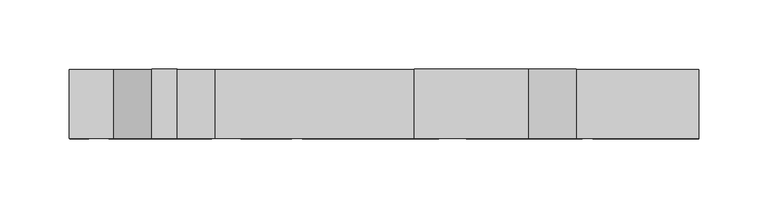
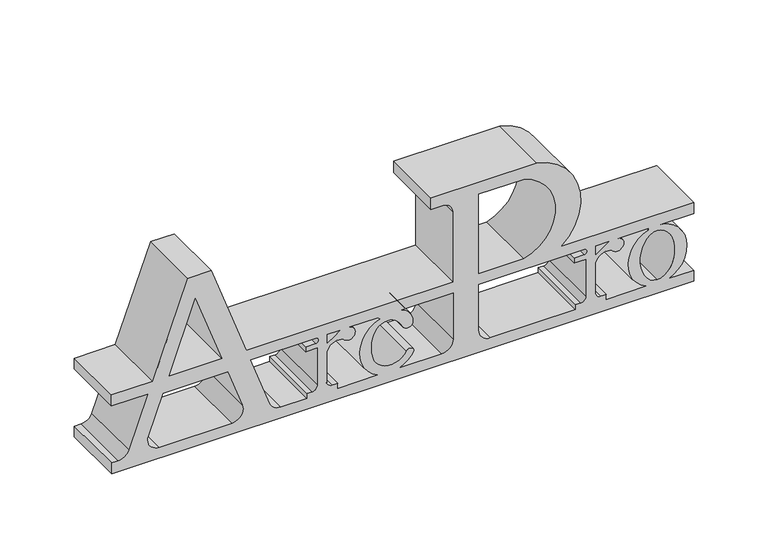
"""IFC4 building model written with IfcOpenShell, lengths in millimetres: proxy geometry, ArcPro Statue : ArcPro Statue."""

from ifc_helpers import new_model, si_unit, point, frame, origin, place, context, project, spatial, polyline, circle_curve, ellipse_curve, trimmed, source, transform, mapped, element, save
from ifc_brep_helpers import plane_surface, cylinder_surface, revolved_surface, extruded_surface, advanced_brep


def generic_models_c4c21ff8(model_context):
    return source(origin(), model_context, "Body", "AdvancedBrep", [
        advanced_brep(
        [(-159.9449231, -25.0, 28.9442604), (-159.9449231, -25.0, 20.1942604), (292.5550769, -25.0, 20.1942604), (292.5550769, -25.0, 28.9442604), (273.1751984, -25.0, 28.9442604), (264.2864752, -25.0, 75.8816405), (292.5550769, -25.0, 75.8816405), (292.5550769, -25.0, 84.8128453), (189.0734598, -25.0, 84.8128453), (170.4950353, -25.0, 160.0), (88.0915147, -25.0, 160.0), (88.0915147, -25.0, 150.6396934), (97.4851093, -25.0, 150.6396934), (105.4950353, -25.0, 142.6297673), (105.4950353, -25.0, 84.8128453), (-55.0790368, -25.0, 84.8128453), (-82.4449231, -25.0, 160.0), (-100.7641808, -25.0, 160.0), (-128.1300671, -25.0, 84.8128453), (-160.0766936, -25.0, 84.8128453), (-160.0766936, -25.0, 75.8816405), (-131.3807598, -25.0, 75.8816405), (-146.3092033, -25.0, 34.8660791), (-154.7664369, -25.0, 28.9442604), (125.4950353, -25.0, 75.8816405), (207.3544989, -25.0, 75.8816405), (207.3544989, -25.0, 71.6558392), (199.8255769, -25.0, 71.6558392), (199.8255769, -25.0, 67.4066965), (208.75, -25.0, 67.4066965), (208.75, -25.0, 37.0447447), (204.75, -25.0, 33.0447447), (200.5361176, -25.0, 33.0447447), (200.5361176, -25.0, 28.9442604), (134.4950353, -25.0, 28.9442604), (125.4950353, -25.0, 37.9442604), (7.5825693, -25.0, 59.9555658), (20.2310978, -25.0, 67.4066965), (25.1241089, -25.0, 75.8816405), (47.1265241, -25.0, 75.8816405), (48.3499831, -25.0, 74.6581814), (46.6477521, -25.0, 28.9442604), (15.7964517, -25.0, 28.9442604), (15.7964517, -25.0, 33.0447447), (11.5825693, -25.0, 33.0447447), (7.5825693, -25.0, 37.0447447), (0.0, -25.0, 37.0447447), (-4.0, -25.0, 33.0447447), (-8.2138824, -25.0, 33.0447447), (-8.2138824, -25.0, 28.9442604), (-28.442667, -25.0, 28.9442604), (-36.8999006, -25.0, 34.8660791), (-51.828344, -25.0, 75.8816405), (-1.3955011, -25.0, 75.8816405), (-1.3955011, -25.0, 71.6558392), (-8.9244231, -25.0, 71.6558392), (-8.9244231, -25.0, 67.4066965), (0.0, -25.0, 67.4066965), (-115.2934171, -25.0, 84.8128453), (-94.7295519, -25.0, 141.3116006), (-74.1656867, -25.0, 84.8128453), (-66.6845168, -25.0, 28.9442604), (-122.774587, -25.0, 28.9442604), (-131.2318206, -25.0, 41.0224417), (-119.9089982, -25.0, 72.1316405), (-69.5501056, -25.0, 72.1316405), (-58.2272832, -25.0, 41.0224417), (96.4144604, -25.0, 28.9442604), (64.4251984, -25.0, 28.9442604), (75.4072973, -25.0, 39.1802657), (69.1662261, -25.0, 40.9150945), (43.3055312, -25.0, 44.0998488), (42.298108, -25.0, 52.8259968), (43.3055312, -25.0, 61.5521448), (46.6530866, -25.0, 67.4272575), (63.5552121, -25.0, 66.0214407), (66.840922, -25.0, 61.1501754), (74.5739603, -25.0, 63.4780564), (65.6111143, -25.0, 75.8816405), (105.4950353, -25.0, 75.8816405), (105.4950353, -25.0, 38.0248353), (255.3977521, -25.0, 28.9442604), (224.5464517, -25.0, 28.9442604), (224.5464517, -25.0, 33.0447447), (220.3325693, -25.0, 33.0447447), (216.3325693, -25.0, 37.0447447), (216.3325693, -25.0, 59.9555658), (228.9810978, -25.0, 67.4066965), (233.8741089, -25.0, 75.8816405), (257.1288877, -25.0, 75.8816405), (257.1288877, -25.0, 74.6682602), (160.4950353, -25.0, 150.0146934), (160.4950353, -25.0, 84.8128453), (125.4950353, -25.0, 84.8128453), (125.4950353, -25.0, 150.0146934), (17.5825693, -25.0, 75.8816405), (7.5825693, -25.0, 68.8561474), (7.5825693, -25.0, 75.8816405), (226.3325693, -25.0, 75.8816405), (216.3325693, -25.0, 68.8561474), (216.3325693, -25.0, 75.8816405), (264.2864752, -25.0, 71.6558392), (264.2864752, -25.0, 31.2714473), (-159.9449231, 25.0, 28.9442604), (-154.7664369, 25.0, 28.9442604), (-146.3092033, 25.0, 34.8660791), (-131.3807598, 25.0, 75.8816405), (-160.0766936, 25.0, 75.8816405), (-160.0766936, 25.0, 84.8128453), (-128.1300671, 25.0, 84.8128453), (-100.7641808, 25.0, 160.0), (-82.4449231, 25.0, 160.0), (-55.0790368, 25.0, 84.8128453), (105.4950353, 25.0, 84.8128453), (105.4950353, 25.0, 142.6297673), (97.4851093, 25.0, 150.6396934), (88.0915147, 25.0, 150.6396934), (88.0915147, 25.0, 160.0), (170.4950353, 25.0, 160.0), (189.0734598, 25.0, 84.8128453), (292.5550769, 25.0, 84.8128453), (292.5550769, 25.0, 75.8816405), (264.2864752, 25.0, 75.8816405), (273.1751984, 25.0, 28.9442604), (292.5550769, 25.0, 28.9442604), (292.5550769, 25.0, 20.1942604), (-159.9449231, 25.0, 20.1942604), (125.4950353, 25.0, 75.8816405), (125.4950353, 25.0, 37.9442604), (134.4950353, 25.0, 28.9442604), (200.5361176, 25.0, 28.9442604), (200.5361176, 25.0, 33.0447447), (204.75, 25.0, 33.0447447), (208.75, 25.0, 37.0447447), (208.75, 25.0, 67.4066965), (199.8255769, 25.0, 67.4066965), (199.8255769, 25.0, 71.6558392), (207.3544989, 25.0, 71.6558392), (207.3544989, 25.0, 75.8816405), (7.5825693, 25.0, 59.9555658), (7.5825693, 25.0, 37.0447447), (11.5825693, 25.0, 33.0447447), (15.7964517, 25.0, 33.0447447), (15.7964517, 25.0, 28.9442604), (46.6477521, 25.0, 28.9442604), (48.3499831, 25.0, 74.6581814), (47.1265241, 25.0, 75.8816405), (25.1241089, 25.0, 75.8816405), (20.2310978, 25.0, 67.4066965), (0.0, 25.0, 37.0447447), (0.0, 25.0, 67.4066965), (-8.9244231, 25.0, 67.4066965), (-8.9244231, 25.0, 71.6558392), (-1.3955011, 25.0, 71.6558392), (-1.3955011, 25.0, 75.8816405), (-51.828344, 25.0, 75.8816405), (-36.8999006, 25.0, 34.8660791), (-28.442667, 25.0, 28.9442604), (-8.2138824, 25.0, 28.9442604), (-8.2138824, 25.0, 33.0447447), (-4.0, 25.0, 33.0447447), (-115.2934171, 25.0, 84.8128453), (-74.1656867, 25.0, 84.8128453), (-94.7295519, 25.0, 141.3116006), (-66.6845168, 25.0, 28.9442604), (-58.2272832, 25.0, 41.0224417), (-69.5501056, 25.0, 72.1316405), (-119.9089982, 25.0, 72.1316405), (-131.2318206, 25.0, 41.0224417), (-122.774587, 25.0, 28.9442604), (96.4144604, 25.0, 28.9442604), (105.4950353, 25.0, 38.0248353), (105.4950353, 25.0, 75.8816405), (65.6111143, 25.0, 75.8816405), (74.5739603, 25.0, 63.4780564), (66.840922, 25.0, 61.1501754), (63.5552121, 25.0, 66.0214407), (46.6530866, 25.0, 67.4272575), (43.3055312, 25.0, 61.5521448), (42.298108, 25.0, 52.8259968), (43.3055312, 25.0, 44.0998488), (69.1662261, 25.0, 40.9150945), (75.4072973, 25.0, 39.1802657), (64.4251984, 25.0, 28.9442604), (255.3977521, 25.0, 28.9442604), (257.1288877, 25.0, 74.6682602), (257.1288877, 25.0, 75.8816405), (233.8741089, 25.0, 75.8816405), (228.9810978, 25.0, 67.4066965), (216.3325693, 25.0, 59.9555658), (216.3325693, 25.0, 37.0447447), (220.3325693, 25.0, 33.0447447), (224.5464517, 25.0, 33.0447447), (224.5464517, 25.0, 28.9442604), (160.4950353, 25.0, 150.0146934), (125.4950353, 25.0, 150.0146934), (125.4950353, 25.0, 84.8128453), (160.4950353, 25.0, 84.8128453), (17.5825693, 25.0, 75.8816405), (7.5825693, 25.0, 75.8816405), (7.5825693, 25.0, 68.8561474), (226.3325693, 25.0, 75.8816405), (216.3325693, 25.0, 75.8816405), (216.3325693, 25.0, 68.8561474), (264.2864752, 25.0, 71.6558392), (264.2864752, 25.0, 31.2714473)],
        [
            (0, 1),
            (1, 2),
            (2, 3),
            (3, 4),
            (4, 5, ellipse_curve(frame((264.2864752, -25.0, 51.4636433), z_axis=(0.0, -1.0, 0.0), x_axis=(0.0, 0.0, -1.0)), 24.4179972, 22.9917286)),
            (5, 6),
            (6, 7),
            (7, 8),
            (8, 9, circle_curve(frame((161.7118893, -25.0, 117.9408202), z_axis=(0.0, -1.0, 0.0), x_axis=(1.0, 0.0, 0.0)), 42.9664783)),
            (9, 10),
            (10, 11),
            (11, 12),
            (12, 13, circle_curve(frame((97.4851093, -25.0, 142.6297673), z_axis=(0.0, 1.0, 0.0), x_axis=(1.0, 0.0, 0.0)), 8.009926)),
            (13, 14),
            (14, 15),
            (15, 16),
            (16, 17),
            (17, 18),
            (18, 19),
            (19, 20),
            (20, 21),
            (21, 22),
            (22, 23, circle_curve(frame((-154.7664369, -25.0, 37.9442604), z_axis=(0.0, 1.0, 0.0), x_axis=(1.0, 0.0, 0.0)), 9.0)),
            (23, 0),
            (24, 25),
            (25, 26, circle_curve(frame((207.3544989, -25.0, 73.7687398), z_axis=(0.0, 1.0, 0.0), x_axis=(1.0, 0.0, 0.0)), 2.1129006)),
            (26, 27),
            (27, 28),
            (28, 29),
            (29, 30),
            (30, 31, circle_curve(frame((204.75, -25.0, 37.0447447), z_axis=(0.0, 1.0, 0.0), x_axis=(1.0, 0.0, 0.0)), 4.0)),
            (31, 32),
            (32, 33),
            (33, 34),
            (34, 35, circle_curve(frame((134.4950353, -25.0, 37.9442604), z_axis=(0.0, 1.0, 0.0), x_axis=(1.0, 0.0, 0.0)), 9.0)),
            (35, 24),
            (36, 37, circle_curve(frame((16.1015295, -25.0, 59.9555658), z_axis=(0.0, 1.0, 0.0), x_axis=(1.0, 0.0, 0.0)), 8.5189602)),
            (37, 38, circle_curve(frame((24.4336944, -25.0, 70.6302889), z_axis=(0.0, -1.0, 0.0), x_axis=(1.0, 0.0, 0.0)), 5.2965428)),
            (38, 39),
            (39, 40),
            (40, 41, ellipse_curve(frame((55.5364752, -25.0, 51.4636433), z_axis=(0.0, -1.0, 0.0), x_axis=(0.0, 0.0, -1.0)), 24.4179972, 22.9917286)),
            (41, 42),
            (42, 43),
            (43, 44),
            (44, 45, circle_curve(frame((11.5825693, -25.0, 37.0447447), z_axis=(0.0, 1.0, 0.0), x_axis=(1.0, 0.0, 0.0)), 4.0)),
            (45, 36),
            (46, 47, circle_curve(frame((-4.0, -25.0, 37.0447447), z_axis=(0.0, 1.0, 0.0), x_axis=(1.0, 0.0, 0.0)), 4.0)),
            (47, 48),
            (48, 49),
            (49, 50),
            (50, 51, circle_curve(frame((-28.442667, -25.0, 37.9442604), z_axis=(0.0, 1.0, 0.0), x_axis=(1.0, 0.0, 0.0)), 9.0)),
            (51, 52),
            (52, 53),
            (53, 54, circle_curve(frame((-1.3955011, -25.0, 73.7687398), z_axis=(0.0, 1.0, 0.0), x_axis=(1.0, 0.0, 0.0)), 2.1129006)),
            (54, 55),
            (55, 56),
            (56, 57),
            (57, 46),
            (58, 59),
            (59, 60),
            (60, 58),
            (61, 62),
            (62, 63, circle_curve(frame((-122.774587, -25.0, 37.9442604), z_axis=(0.0, 1.0, 0.0), x_axis=(1.0, 0.0, 0.0)), 9.0)),
            (63, 64),
            (64, 65),
            (65, 66),
            (66, 61, circle_curve(frame((-66.6845168, -25.0, 37.9442604), z_axis=(0.0, 1.0, 0.0), x_axis=(1.0, 0.0, 0.0)), 9.0)),
            (67, 68),
            (68, 69, ellipse_curve(frame((55.5364752, -25.0, 51.4636433), z_axis=(0.0, -1.0, 0.0), x_axis=(0.0, 0.0, -1.0)), 24.4179972, 22.9917286)),
            (69, 70, circle_curve(frame((71.987116, -25.0, 38.9697005), z_axis=(0.0, -1.0, 0.0), x_axis=(1.0, 0.0, 0.0)), 3.426657)),
            (70, 71, circle_curve(frame((56.9071908, -25.0, 47.9586293), z_axis=(0.0, 1.0, 0.0), x_axis=(1.0, 0.0, 0.0)), 14.1384344)),
            (71, 72, circle_curve(frame((69.583184, -25.0, 51.5547989), z_axis=(0.0, 1.0, 0.0), x_axis=(1.0, 0.0, 0.0)), 27.3146722)),
            (72, 73, circle_curve(frame((69.583184, -25.0, 54.0971947), z_axis=(0.0, 1.0, 0.0), x_axis=(1.0, 0.0, 0.0)), 27.3146722)),
            (73, 74, circle_curve(frame((56.9071908, -25.0, 57.6933643), z_axis=(0.0, 1.0, 0.0), x_axis=(1.0, 0.0, 0.0)), 14.1384344)),
            (74, 75, circle_curve(frame((54.5399134, -25.0, 59.940545), z_axis=(0.0, 1.0, 0.0), x_axis=(1.0, 0.0, 0.0)), 10.874415)),
            (75, 76),
            (76, 77, circle_curve(frame((70.3461038, -25.0, 63.5144504), z_axis=(0.0, -1.0, 0.0), x_axis=(1.0, 0.0, 0.0)), 4.2280132)),
            (77, 78, circle_curve(frame((61.6637413, -25.0, 63.5891894), z_axis=(0.0, -1.0, 0.0), x_axis=(1.0, 0.0, 0.0)), 12.9106974)),
            (78, 79),
            (79, 80),
            (80, 67, circle_curve(frame((96.4144604, -25.0, 38.0248353), z_axis=(0.0, 1.0, 0.0), x_axis=(1.0, 0.0, 0.0)), 9.0805749)),
            (81, 82),
            (82, 83),
            (83, 84),
            (84, 85, circle_curve(frame((220.3325693, -25.0, 37.0447447), z_axis=(0.0, 1.0, 0.0), x_axis=(1.0, 0.0, 0.0)), 4.0)),
            (85, 86),
            (86, 87, circle_curve(frame((224.8515295, -25.0, 59.9555658), z_axis=(0.0, 1.0, 0.0), x_axis=(1.0, 0.0, 0.0)), 8.5189602)),
            (87, 88, circle_curve(frame((233.1836944, -25.0, 70.6302889), z_axis=(0.0, -1.0, 0.0), x_axis=(1.0, 0.0, 0.0)), 5.2965428)),
            (88, 89),
            (89, 90),
            (90, 81, ellipse_curve(frame((264.2864752, -25.0, 51.4636433), z_axis=(0.0, -1.0, 0.0), x_axis=(0.0, 0.0, -1.0)), 24.4179972, 22.9917286)),
            (91, 92, circle_curve(frame((151.0356126, -25.0, 117.4137693), z_axis=(0.0, 1.0, 0.0), x_axis=(1.0, 0.0, 0.0)), 33.9455583)),
            (92, 93),
            (93, 94),
            (94, 91),
            (95, 96, circle_curve(frame((-13.2194948, -25.0, 109.095233), z_axis=(0.0, 1.0, 0.0), x_axis=(1.0, 0.0, 0.0)), 45.2980119)),
            (96, 97),
            (97, 95),
            (98, 99, circle_curve(frame((195.5305052, -25.0, 109.095233), z_axis=(0.0, 1.0, 0.0), x_axis=(1.0, 0.0, 0.0)), 45.2980119)),
            (99, 100),
            (100, 98),
            (101, 102, ellipse_curve(frame((264.2864752, -25.0, 51.4636433), z_axis=(0.0, 1.0, 0.0), x_axis=(0.0, 0.0, -1.0)), 20.1921959, 13.2686017)),
            (102, 101, ellipse_curve(frame((264.2864752, -25.0, 51.4636433), z_axis=(0.0, 1.0, 0.0), x_axis=(0.0, 0.0, -1.0)), 20.1921959, 13.2686017)),
            (103, 104),
            (104, 105, circle_curve(frame((-154.7664369, 25.0, 37.9442604), z_axis=(0.0, -1.0, 0.0), x_axis=(1.0, 0.0, 0.0)), 9.0)),
            (105, 106),
            (106, 107),
            (107, 108),
            (108, 109),
            (109, 110),
            (110, 111),
            (111, 112),
            (112, 113),
            (113, 114),
            (114, 115, circle_curve(frame((97.4851093, 25.0, 142.6297673), z_axis=(0.0, -1.0, 0.0), x_axis=(1.0, 0.0, 0.0)), 8.009926)),
            (115, 116),
            (116, 117),
            (117, 118),
            (118, 119, circle_curve(frame((161.7118893, 25.0, 117.9408202), z_axis=(0.0, 1.0, 0.0), x_axis=(1.0, 0.0, 0.0)), 42.9664783)),
            (119, 120),
            (120, 121),
            (121, 122),
            (122, 123, ellipse_curve(frame((264.2864752, 25.0, 51.4636433), z_axis=(0.0, 1.0, 0.0), x_axis=(-1.0, 0.0, 0.0)), 22.9917286, 24.4179972)),
            (123, 124),
            (124, 125),
            (125, 126),
            (126, 103),
            (127, 128),
            (128, 129, circle_curve(frame((134.4950353, 25.0, 37.9442604), z_axis=(0.0, -1.0, 0.0), x_axis=(1.0, 0.0, 0.0)), 9.0)),
            (129, 130),
            (130, 131),
            (131, 132),
            (132, 133, circle_curve(frame((204.75, 25.0, 37.0447447), z_axis=(0.0, -1.0, 0.0), x_axis=(1.0, 0.0, 0.0)), 4.0)),
            (133, 134),
            (134, 135),
            (135, 136),
            (136, 137),
            (137, 138, circle_curve(frame((207.3544989, 25.0, 73.7687398), z_axis=(0.0, -1.0, 0.0), x_axis=(1.0, 0.0, 0.0)), 2.1129006)),
            (138, 127),
            (139, 140),
            (140, 141, circle_curve(frame((11.5825693, 25.0, 37.0447447), z_axis=(0.0, -1.0, 0.0), x_axis=(1.0, 0.0, 0.0)), 4.0)),
            (141, 142),
            (142, 143),
            (143, 144),
            (144, 145, ellipse_curve(frame((55.5364752, 25.0, 51.4636433), z_axis=(0.0, 1.0, 0.0), x_axis=(0.0, 0.0, -1.0)), 24.4179972, 22.9917286)),
            (145, 146),
            (146, 147),
            (147, 148, circle_curve(frame((24.4336944, 25.0, 70.6302889), z_axis=(0.0, 1.0, 0.0), x_axis=(1.0, 0.0, 0.0)), 5.2965428)),
            (148, 139, circle_curve(frame((16.1015295, 25.0, 59.9555658), z_axis=(0.0, -1.0, 0.0), x_axis=(1.0, 0.0, 0.0)), 8.5189602)),
            (149, 150),
            (150, 151),
            (151, 152),
            (152, 153),
            (153, 154, circle_curve(frame((-1.3955011, 25.0, 73.7687398), z_axis=(0.0, -1.0, 0.0), x_axis=(1.0, 0.0, 0.0)), 2.1129006)),
            (154, 155),
            (155, 156),
            (156, 157, circle_curve(frame((-28.442667, 25.0, 37.9442604), z_axis=(0.0, -1.0, 0.0), x_axis=(1.0, 0.0, 0.0)), 9.0)),
            (157, 158),
            (158, 159),
            (159, 160),
            (160, 149, circle_curve(frame((-4.0, 25.0, 37.0447447), z_axis=(0.0, -1.0, 0.0), x_axis=(1.0, 0.0, 0.0)), 4.0)),
            (161, 162),
            (162, 163),
            (163, 161),
            (164, 165, circle_curve(frame((-66.6845168, 25.0, 37.9442604), z_axis=(0.0, -1.0, 0.0), x_axis=(1.0, 0.0, 0.0)), 9.0)),
            (165, 166),
            (166, 167),
            (167, 168),
            (168, 169, circle_curve(frame((-122.774587, 25.0, 37.9442604), z_axis=(0.0, -1.0, 0.0), x_axis=(1.0, 0.0, 0.0)), 9.0)),
            (169, 164),
            (170, 171, circle_curve(frame((96.4144604, 25.0, 38.0248353), z_axis=(0.0, -1.0, 0.0), x_axis=(1.0, 0.0, 0.0)), 9.0805749)),
            (171, 172),
            (172, 173),
            (173, 174, circle_curve(frame((61.6637413, 25.0, 63.5891894), z_axis=(0.0, 1.0, 0.0), x_axis=(1.0, 0.0, 0.0)), 12.9106974)),
            (174, 175, circle_curve(frame((70.3461038, 25.0, 63.5144504), z_axis=(0.0, 1.0, 0.0), x_axis=(1.0, 0.0, 0.0)), 4.2280132)),
            (175, 176),
            (176, 177, circle_curve(frame((54.5399134, 25.0, 59.940545), z_axis=(0.0, -1.0, 0.0), x_axis=(1.0, 0.0, 0.0)), 10.874415)),
            (177, 178, circle_curve(frame((56.9071908, 25.0, 57.6933643), z_axis=(0.0, -1.0, 0.0), x_axis=(1.0, 0.0, 0.0)), 14.1384344)),
            (178, 179, circle_curve(frame((69.583184, 25.0, 54.0971947), z_axis=(0.0, -1.0, 0.0), x_axis=(1.0, 0.0, 0.0)), 27.3146722)),
            (179, 180, circle_curve(frame((69.583184, 25.0, 51.5547989), z_axis=(0.0, -1.0, 0.0), x_axis=(1.0, 0.0, 0.0)), 27.3146722)),
            (180, 181, circle_curve(frame((56.9071908, 25.0, 47.9586293), z_axis=(0.0, -1.0, 0.0), x_axis=(1.0, 0.0, 0.0)), 14.1384344)),
            (181, 182, circle_curve(frame((71.987116, 25.0, 38.9697005), z_axis=(0.0, 1.0, 0.0), x_axis=(1.0, 0.0, 0.0)), 3.426657)),
            (182, 183, ellipse_curve(frame((55.5364752, 25.0, 51.4636433), z_axis=(0.0, 1.0, 0.0), x_axis=(0.0, 0.0, -1.0)), 24.4179972, 22.9917286)),
            (183, 170),
            (184, 185, ellipse_curve(frame((264.2864752, 25.0, 51.4636433), z_axis=(0.0, 1.0, 0.0), x_axis=(0.0, 0.0, -1.0)), 24.4179972, 22.9917286)),
            (185, 186),
            (186, 187),
            (187, 188, circle_curve(frame((233.1836944, 25.0, 70.6302889), z_axis=(0.0, 1.0, 0.0), x_axis=(1.0, 0.0, 0.0)), 5.2965428)),
            (188, 189, circle_curve(frame((224.8515295, 25.0, 59.9555658), z_axis=(0.0, -1.0, 0.0), x_axis=(1.0, 0.0, 0.0)), 8.5189602)),
            (189, 190),
            (190, 191, circle_curve(frame((220.3325693, 25.0, 37.0447447), z_axis=(0.0, -1.0, 0.0), x_axis=(1.0, 0.0, 0.0)), 4.0)),
            (191, 192),
            (192, 193),
            (193, 184),
            (194, 195),
            (195, 196),
            (196, 197),
            (197, 194, circle_curve(frame((151.0356126, 25.0, 117.4137693), z_axis=(0.0, -1.0, 0.0), x_axis=(1.0, 0.0, 0.0)), 33.9455583)),
            (198, 199),
            (199, 200),
            (200, 198, circle_curve(frame((-13.2194948, 25.0, 109.095233), z_axis=(0.0, -1.0, 0.0), x_axis=(1.0, 0.0, 0.0)), 45.2980119)),
            (201, 202),
            (202, 203),
            (203, 201, circle_curve(frame((195.5305052, 25.0, 109.095233), z_axis=(0.0, -1.0, 0.0), x_axis=(1.0, 0.0, 0.0)), 45.2980119)),
            (204, 205, ellipse_curve(frame((264.2864752, 25.0, 51.4636433), z_axis=(0.0, -1.0, 0.0), x_axis=(0.0, 0.0, -1.0)), 20.1921959, 13.2686017)),
            (205, 204, ellipse_curve(frame((264.2864752, 25.0, 51.4636433), z_axis=(0.0, -1.0, 0.0), x_axis=(0.0, 0.0, -1.0)), 20.1921959, 13.2686017)),
            (0, 103),
            (126, 1),
            (125, 2),
            (124, 3),
            (123, 4),
            (122, 5),
            (121, 6),
            (120, 7),
            (119, 8),
            (118, 9),
            (117, 10),
            (116, 11),
            (115, 12),
            (114, 13),
            (113, 14),
            (112, 15),
            (111, 16),
            (110, 17),
            (109, 18),
            (108, 19),
            (107, 20),
            (106, 21),
            (105, 22),
            (104, 23),
            (24, 127),
            (138, 25),
            (137, 26),
            (136, 27),
            (135, 28),
            (134, 29),
            (133, 30),
            (132, 31),
            (131, 32),
            (130, 33),
            (129, 34),
            (128, 35),
            (36, 139),
            (148, 37),
            (147, 38),
            (146, 39),
            (145, 40),
            (144, 41),
            (143, 42),
            (142, 43),
            (141, 44),
            (140, 45),
            (46, 149),
            (160, 47),
            (159, 48),
            (158, 49),
            (157, 50),
            (156, 51),
            (155, 52),
            (154, 53),
            (153, 54),
            (152, 55),
            (151, 56),
            (150, 57),
            (58, 161),
            (163, 59),
            (162, 60),
            (61, 164),
            (169, 62),
            (168, 63),
            (167, 64),
            (166, 65),
            (165, 66),
            (67, 170),
            (183, 68),
            (182, 69),
            (181, 70),
            (180, 71),
            (179, 72),
            (178, 73),
            (177, 74),
            (176, 75),
            (175, 76),
            (174, 77),
            (173, 78),
            (172, 79),
            (171, 80),
            (81, 184),
            (193, 82),
            (192, 83),
            (191, 84),
            (190, 85),
            (189, 86),
            (188, 87),
            (187, 88),
            (186, 89),
            (185, 90),
            (91, 194),
            (197, 92),
            (196, 93),
            (195, 94),
            (95, 198),
            (200, 96),
            (199, 97),
            (98, 201),
            (203, 99),
            (202, 100),
            (101, 204),
            (205, 102),
        ],
        [
            plane_surface(frame((-159.9449231, -25.0, 30.1942604), z_axis=(0.0, -1.0, 0.0), x_axis=(0.0, 0.0, -1.0))),
            plane_surface(frame((-159.9449231, 25.0, 30.1942604), z_axis=(0.0, 1.0, 0.0), x_axis=(0.0, 0.0, 1.0))),
            plane_surface(frame((-159.9449231, -25.0, 28.9442604), z_axis=(-1.0, 0.0, 0.0), x_axis=(0.0, 1.0, 0.0))),
            plane_surface(frame((-159.9449231, -25.0, 20.1942604), z_axis=(0.0, 0.0, -1.0), x_axis=(0.0, 1.0, 0.0))),
            plane_surface(frame((292.5550769, -25.0, 20.1942604), z_axis=(1.0, 0.0, 0.0), x_axis=(0.0, 1.0, 0.0))),
            plane_surface(frame((292.5550769, -25.0, 28.9442604), z_axis=(0.0, 0.0, 1.0), x_axis=(0.0, 1.0, 0.0))),
            extruded_surface(trimmed(ellipse_curve(frame((264.2864752, 75.0, 51.4636433), z_axis=(0.0, -1.0, 0.0), x_axis=(-1.0, 0.0, 0.0)), 22.9917286, 24.4179972), [point((273.1751984, 75.0, 28.9442604))], [point((264.2864752, 75.0, 75.8816405))], True, "CARTESIAN"), (0.0, -50.0, 0.0), 50.0),
            plane_surface(frame((264.2864752, -25.0, 75.8816405), z_axis=(0.0, 0.0, -1.0), x_axis=(0.0, 1.0, 0.0))),
            plane_surface(frame((292.5550769, -25.0, 75.8816405), z_axis=(1.0, 0.0, 0.0), x_axis=(0.0, 1.0, 0.0))),
            plane_surface(frame((292.5550769, -25.0, 84.8128453), z_axis=(0.0, 0.0, 1.0), x_axis=(0.0, 1.0, 0.0))),
            cylinder_surface(frame((161.7118893, 25.0, 117.9408202), z_axis=(0.0, -1.0, 0.0), x_axis=(1.0, 0.0, 0.0)), 42.9664783),
            plane_surface(frame((170.4950353, -25.0, 160.0), z_axis=(0.0, 0.0, 1.0), x_axis=(0.0, 1.0, 0.0))),
            plane_surface(frame((88.0915147, -25.0, 160.0), z_axis=(-1.0, 0.0, 0.0), x_axis=(0.0, 1.0, 0.0))),
            plane_surface(frame((88.0915147, -25.0, 150.6396934), z_axis=(0.0, 0.0, -1.0), x_axis=(0.0, 1.0, 0.0))),
            revolved_surface(polyline([(105.49503530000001, 25.0, 142.6297673), (105.49503530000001, -25.0, 142.6297673)]), (97.4851093, 25.0, 142.6297673), (0.0, 1.0, 0.0)),
            plane_surface(frame((105.4950353, -25.0, 142.6297673), z_axis=(-1.0, 0.0, 0.0), x_axis=(0.0, 1.0, 0.0))),
            plane_surface(frame((105.4950353, -25.0, 84.8128453), z_axis=(0.0, 0.0, 1.0), x_axis=(0.0, 1.0, 0.0))),
            plane_surface(frame((-55.0790368, -25.0, 84.8128453), z_axis=(0.9396926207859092, 0.0, 0.3420201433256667), x_axis=(0.0, 1.0, 0.0))),
            plane_surface(frame((-82.4449231, -25.0, 160.0), z_axis=(0.0, 0.0, 1.0), x_axis=(0.0, 1.0, 0.0))),
            plane_surface(frame((-100.7641808, -25.0, 160.0), z_axis=(-0.9396926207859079, 0.0, 0.3420201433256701), x_axis=(0.0, 1.0, 0.0))),
            plane_surface(frame((-128.1300671, -25.0, 84.8128453), z_axis=(0.0, 0.0, 1.0), x_axis=(0.0, 1.0, 0.0))),
            plane_surface(frame((-160.0766936, -25.0, 84.8128453), z_axis=(-1.0, 0.0, 0.0), x_axis=(0.0, 1.0, 0.0))),
            plane_surface(frame((-160.0766936, -25.0, 75.8816405), z_axis=(0.0, 0.0, -1.0), x_axis=(0.0, 1.0, 0.0))),
            plane_surface(frame((-131.3807598, -25.0, 75.8816405), z_axis=(-0.9396926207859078, 0.0, 0.3420201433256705), x_axis=(0.0, 1.0, 0.0))),
            revolved_surface(polyline([(-145.7664369, 25.0, 37.9442604), (-145.7664369, -25.0, 37.9442604)]), (-154.7664369, 25.0, 37.9442604), (0.0, 1.0, 0.0)),
            plane_surface(frame((-154.7664369, -25.0, 28.9442604), z_axis=(0.0, 0.0, 1.0), x_axis=(0.0, 1.0, 0.0))),
            plane_surface(frame((125.4950353, -25.0, 75.8816405), z_axis=(0.0, 0.0, -1.0), x_axis=(0.0, 1.0, 0.0))),
            revolved_surface(polyline([(209.4673995, 25.0, 73.7687398), (209.4673995, -25.0, 73.7687398)]), (207.3544989, 0.0, 73.7687398), (0.0, 1.0, 0.0)),
            plane_surface(frame((207.3544989, -25.0, 71.6558392), z_axis=(0.0, 0.0, 1.0), x_axis=(0.0, 1.0, 0.0))),
            plane_surface(frame((199.8255769, -25.0, 71.6558392), z_axis=(-1.0, 0.0, 0.0), x_axis=(0.0, 1.0, 0.0))),
            plane_surface(frame((199.8255769, -25.0, 67.4066965), z_axis=(0.0, 0.0, -1.0), x_axis=(0.0, 1.0, 0.0))),
            plane_surface(frame((208.75, -25.0, 67.4066965), z_axis=(-1.0, 0.0, 0.0), x_axis=(0.0, 1.0, 0.0))),
            revolved_surface(polyline([(208.75, 25.0, 37.0447447), (208.75, -25.0, 37.0447447)]), (204.75, 0.0, 37.0447447), (0.0, 1.0, 0.0)),
            plane_surface(frame((204.75, -25.0, 33.0447447), z_axis=(0.0, 0.0, 1.0), x_axis=(0.0, 1.0, 0.0))),
            plane_surface(frame((200.5361176, -25.0, 33.0447447), z_axis=(-1.0, 0.0, 0.0), x_axis=(0.0, 1.0, 0.0))),
            plane_surface(frame((200.5361176, -25.0, 28.9442604), z_axis=(0.0, 0.0, 1.0), x_axis=(0.0, 1.0, 0.0))),
            revolved_surface(polyline([(143.4950353, 25.0, 37.9442604), (143.4950353, -25.0, 37.9442604)]), (134.4950353, 0.0, 37.9442604), (0.0, 1.0, 0.0)),
            plane_surface(frame((125.4950353, -25.0, 37.9442604), z_axis=(1.0, 0.0, 0.0), x_axis=(0.0, 1.0, 0.0))),
            revolved_surface(polyline([(24.6204897, 25.0, 59.9555658), (24.6204897, -25.0, 59.9555658)]), (16.1015295, 0.0, 59.9555658), (0.0, 1.0, 0.0)),
            cylinder_surface(frame((24.4336944, 0.0, 70.6302889), z_axis=(0.0, -1.0, 0.0), x_axis=(1.0, 0.0, 0.0)), 5.2965428),
            plane_surface(frame((25.1241089, -25.0, 75.8816405), z_axis=(0.0, 0.0, -1.0), x_axis=(0.0, 1.0, 0.0))),
            plane_surface(frame((47.1265241, -25.0, 75.8816405), z_axis=(-0.7071067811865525, 0.0, -0.7071067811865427), x_axis=(0.0, 1.0, 0.0))),
            extruded_surface(trimmed(ellipse_curve(frame((55.5364752, 50.0, 51.4636433), z_axis=(0.0, -1.0, 0.0), x_axis=(-1.0, 0.0, 0.0)), 22.9917286, 24.4179972), [point((48.3499831, 50.0, 74.6581814))], [point((46.6477521, 50.0, 28.9442604))], True, "CARTESIAN"), (0.0, -50.0, 0.0), 50.0),
            plane_surface(frame((46.6477521, -25.0, 28.9442604), z_axis=(0.0, 0.0, 1.0), x_axis=(0.0, 1.0, 0.0))),
            plane_surface(frame((15.7964517, -25.0, 28.9442604), z_axis=(1.0, 0.0, 0.0), x_axis=(0.0, 1.0, 0.0))),
            plane_surface(frame((15.7964517, -25.0, 33.0447447), z_axis=(0.0, 0.0, 1.0), x_axis=(0.0, 1.0, 0.0))),
            revolved_surface(polyline([(15.5825693, 25.0, 37.0447447), (15.5825693, -25.0, 37.0447447)]), (11.5825693, 0.0, 37.0447447), (0.0, 1.0, 0.0)),
            plane_surface(frame((7.5825693, -25.0, 37.0447447), z_axis=(1.0, 0.0, 0.0), x_axis=(0.0, 1.0, 0.0))),
            revolved_surface(polyline([(0.0, 25.0, 37.0447447), (0.0, -25.0, 37.0447447)]), (-4.0, 0.0, 37.0447447), (0.0, 1.0, 0.0)),
            plane_surface(frame((-4.0, -25.0, 33.0447447), z_axis=(0.0, 0.0, 1.0), x_axis=(0.0, 1.0, 0.0))),
            plane_surface(frame((-8.2138824, -25.0, 33.0447447), z_axis=(-1.0, 0.0, 0.0), x_axis=(0.0, 1.0, 0.0))),
            plane_surface(frame((-8.2138824, -25.0, 28.9442604), z_axis=(0.0, 0.0, 1.0), x_axis=(0.0, 1.0, 0.0))),
            revolved_surface(polyline([(-19.442667, 25.0, 37.9442604), (-19.442667, -25.0, 37.9442604)]), (-28.442667, 0.0, 37.9442604), (0.0, 1.0, 0.0)),
            plane_surface(frame((-36.8999006, -25.0, 34.8660791), z_axis=(0.9396926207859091, 0.0, 0.34202014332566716), x_axis=(0.0, 1.0, 0.0))),
            plane_surface(frame((-51.828344, -25.0, 75.8816405), z_axis=(0.0, 0.0, -1.0), x_axis=(0.0, 1.0, 0.0))),
            revolved_surface(polyline([(0.7173995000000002, 25.0, 73.7687398), (0.7173995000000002, -25.0, 73.7687398)]), (-1.3955011, 0.0, 73.7687398), (0.0, 1.0, 0.0)),
            plane_surface(frame((-1.3955011, -25.0, 71.6558392), z_axis=(0.0, 0.0, 1.0), x_axis=(0.0, 1.0, 0.0))),
            plane_surface(frame((-8.9244231, -25.0, 71.6558392), z_axis=(-1.0, 0.0, 0.0), x_axis=(0.0, 1.0, 0.0))),
            plane_surface(frame((-8.9244231, -25.0, 67.4066965), z_axis=(0.0, 0.0, -1.0), x_axis=(0.0, 1.0, 0.0))),
            plane_surface(frame((0.0, -25.0, 67.4066965), z_axis=(-1.0, 0.0, 0.0), x_axis=(0.0, 1.0, 0.0))),
            plane_surface(frame((-115.2934171, -25.0, 84.8128453), z_axis=(0.9396926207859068, 0.0, -0.34202014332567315), x_axis=(0.0, 1.0, 0.0))),
            plane_surface(frame((-94.7295519, -25.0, 141.3116006), z_axis=(-0.9396926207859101, 0.0, -0.3420201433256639), x_axis=(0.0, 1.0, 0.0))),
            plane_surface(frame((-74.1656867, -25.0, 84.8128453), z_axis=(0.0, 0.0, 1.0), x_axis=(0.0, 1.0, 0.0))),
            plane_surface(frame((-66.6845168, -25.0, 28.9442604), z_axis=(0.0, 0.0, 1.0), x_axis=(0.0, 1.0, 0.0))),
            revolved_surface(polyline([(-113.774587, 25.0, 37.9442604), (-113.774587, -25.0, 37.9442604)]), (-122.774587, 0.0, 37.9442604), (0.0, 1.0, 0.0)),
            plane_surface(frame((-131.2318206, -25.0, 41.0224417), z_axis=(0.9396926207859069, 0.0, -0.342020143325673), x_axis=(0.0, 1.0, 0.0))),
            plane_surface(frame((-119.9089982, -25.0, 72.1316405), z_axis=(0.0, 0.0, -1.0), x_axis=(0.0, 1.0, 0.0))),
            plane_surface(frame((-69.5501056, -25.0, 72.1316405), z_axis=(-0.9396926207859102, 0.0, -0.3420201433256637), x_axis=(0.0, 1.0, 0.0))),
            revolved_surface(polyline([(-57.6845168, 25.0, 37.9442604), (-57.6845168, -25.0, 37.9442604)]), (-66.6845168, 0.0, 37.9442604), (0.0, 1.0, 0.0)),
            plane_surface(frame((96.4144604, -25.0, 28.9442604), z_axis=(0.0, 0.0, 1.0), x_axis=(0.0, 1.0, 0.0))),
            extruded_surface(trimmed(ellipse_curve(frame((55.5364752, 50.0, 51.4636433), z_axis=(0.0, -1.0, 0.0), x_axis=(-1.0, 0.0, 0.0)), 22.9917286, 24.4179972), [point((64.4251984, 50.0, 28.9442604))], [point((75.4072973, 50.0, 39.1802657))], True, "CARTESIAN"), (0.0, -50.0, 0.0), 50.0),
            cylinder_surface(frame((71.987116, 0.0, 38.9697005), z_axis=(0.0, -1.0, 0.0), x_axis=(1.0, 0.0, 0.0)), 3.426657),
            revolved_surface(polyline([(71.0456252, 25.0, 47.9586293), (71.0456252, -25.0, 47.9586293)]), (56.9071908, 0.0, 47.9586293), (0.0, 1.0, 0.0)),
            revolved_surface(polyline([(96.8978562, 25.0, 51.5547989), (96.8978562, -25.0, 51.5547989)]), (69.583184, 0.0, 51.5547989), (0.0, 1.0, 0.0)),
            revolved_surface(polyline([(96.8978562, 25.0, 54.0971947), (96.8978562, -25.0, 54.0971947)]), (69.583184, 0.0, 54.0971947), (0.0, 1.0, 0.0)),
            revolved_surface(polyline([(71.0456252, 25.0, 57.6933643), (71.0456252, -25.0, 57.6933643)]), (56.9071908, 0.0, 57.6933643), (0.0, 1.0, 0.0)),
            revolved_surface(polyline([(65.4143284, 25.0, 59.940545), (65.4143284, -25.0, 59.940545)]), (54.5399134, 0.0, 59.940545), (0.0, 1.0, 0.0)),
            plane_surface(frame((63.5552121, -25.0, 66.0214407), z_axis=(-0.8290375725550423, 0.0, -0.559192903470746), x_axis=(0.0, 1.0, 0.0))),
            cylinder_surface(frame((70.3461038, 0.0, 63.5144504), z_axis=(0.0, -1.0, 0.0), x_axis=(1.0, 0.0, 0.0)), 4.2280132),
            cylinder_surface(frame((61.6637413, 0.0, 63.5891894), z_axis=(0.0, -1.0, 0.0), x_axis=(1.0, 0.0, 0.0)), 12.9106974),
            plane_surface(frame((65.6111143, -25.0, 75.8816405), z_axis=(0.0, 0.0, -1.0), x_axis=(0.0, 1.0, 0.0))),
            plane_surface(frame((105.4950353, -25.0, 75.8816405), z_axis=(-1.0, 0.0, 0.0), x_axis=(0.0, 1.0, 0.0))),
            revolved_surface(polyline([(105.4950353, 25.0, 38.0248353), (105.4950353, -25.0, 38.0248353)]), (96.4144604, 0.0, 38.0248353), (0.0, 1.0, 0.0)),
            plane_surface(frame((255.3977521, -25.0, 28.9442604), z_axis=(0.0, 0.0, 1.0), x_axis=(0.0, 1.0, 0.0))),
            plane_surface(frame((224.5464517, -25.0, 28.9442604), z_axis=(1.0, 0.0, 0.0), x_axis=(0.0, 1.0, 0.0))),
            plane_surface(frame((224.5464517, -25.0, 33.0447447), z_axis=(0.0, 0.0, 1.0), x_axis=(0.0, 1.0, 0.0))),
            revolved_surface(polyline([(224.3325693, 25.0, 37.0447447), (224.3325693, -25.0, 37.0447447)]), (220.3325693, 0.0, 37.0447447), (0.0, 1.0, 0.0)),
            plane_surface(frame((216.3325693, -25.0, 37.0447447), z_axis=(1.0, 0.0, 0.0), x_axis=(0.0, 1.0, 0.0))),
            revolved_surface(polyline([(233.3704897, 25.0, 59.9555658), (233.3704897, -25.0, 59.9555658)]), (224.8515295, 0.0, 59.9555658), (0.0, 1.0, 0.0)),
            cylinder_surface(frame((233.1836944, 0.0, 70.6302889), z_axis=(0.0, -1.0, 0.0), x_axis=(1.0, 0.0, 0.0)), 5.2965428),
            plane_surface(frame((233.8741089, -25.0, 75.8816405), z_axis=(0.0, 0.0, -1.0), x_axis=(0.0, 1.0, 0.0))),
            plane_surface(frame((257.1288877, -25.0, 75.8816405), z_axis=(-1.0, 0.0, 0.0), x_axis=(0.0, 1.0, 0.0))),
            extruded_surface(trimmed(ellipse_curve(frame((264.2864752, 50.0, 51.4636433), z_axis=(0.0, -1.0, 0.0), x_axis=(-1.0, 0.0, 0.0)), 22.9917286, 24.4179972), [point((257.1288877, 50.0, 74.6682602))], [point((255.3977521, 50.0, 28.9442604))], True, "CARTESIAN"), (0.0, -50.0, 0.0), 50.0),
            revolved_surface(polyline([(184.9811709, 25.0, 117.4137693), (184.9811709, -25.0, 117.4137693)]), (151.0356126, 0.0, 117.4137693), (0.0, 1.0, 0.0)),
            plane_surface(frame((160.4950353, -25.0, 84.8128453), z_axis=(0.0, 0.0, 1.0), x_axis=(0.0, 1.0, 0.0))),
            plane_surface(frame((125.4950353, -25.0, 84.8128453), z_axis=(1.0, 0.0, 0.0), x_axis=(0.0, 1.0, 0.0))),
            plane_surface(frame((125.4950353, -25.0, 150.0146934), z_axis=(0.0, 0.0, -1.0), x_axis=(0.0, 1.0, 0.0))),
            revolved_surface(polyline([(32.0785171, 25.0, 109.095233), (32.0785171, -25.0, 109.095233)]), (-13.2194948, 0.0, 109.095233), (0.0, 1.0, 0.0)),
            plane_surface(frame((7.5825693, -25.0, 68.8561474), z_axis=(1.0, 0.0, 0.0), x_axis=(0.0, 1.0, 0.0))),
            plane_surface(frame((7.5825693, -25.0, 75.8816405), z_axis=(0.0, 0.0, -1.0), x_axis=(0.0, 1.0, 0.0))),
            revolved_surface(polyline([(240.8285171, 25.0, 109.095233), (240.8285171, -25.0, 109.095233)]), (195.5305052, 0.0, 109.095233), (0.0, 1.0, 0.0)),
            plane_surface(frame((216.3325693, -25.0, 68.8561474), z_axis=(1.0, 0.0, 0.0), x_axis=(0.0, 1.0, 0.0))),
            plane_surface(frame((216.3325693, -25.0, 75.8816405), z_axis=(0.0, 0.0, -1.0), x_axis=(0.0, 1.0, 0.0))),
            extruded_surface(trimmed(ellipse_curve(frame((264.2864752, 50.0, 51.4636433), z_axis=(0.0, 1.0, 0.0), x_axis=(0.0, 0.0, -1.0)), 20.1921959, 13.2686017), [point((264.2864752, 50.0, 71.6558392))], [point((264.2864752, 50.0, 31.2714473))], True, "CARTESIAN"), (0.0, -50.0, 0.0), 50.0),
            extruded_surface(trimmed(ellipse_curve(frame((264.2864752, 50.0, 51.4636433), z_axis=(0.0, 1.0, 0.0), x_axis=(0.0, 0.0, -1.0)), 20.1921959, 13.2686017), [point((264.2864752, 50.0, 31.2714473))], [point((264.2864752, 50.0, 71.6558392))], True, "CARTESIAN"), (0.0, -50.0, 0.0), 50.0),
        ],
        [
            (0, [[1, 2, 3, 4, 5, 6, 7, 8, 9, 10, 11, 12, 13, 14, 15, 16, 17, 18, 19, 20, 21, 22, 23, 24], [25, 26, 27, 28, 29, 30, 31, 32, 33, 34, 35, 36], [37, 38, 39, 40, 41, 42, 43, 44, 45, 46], [47, 48, 49, 50, 51, 52, 53, 54, 55, 56, 57, 58], [59, 60, 61], [62, 63, 64, 65, 66, 67], [68, 69, 70, 71, 72, 73, 74, 75, 76, 77, 78, 79, 80, 81], [82, 83, 84, 85, 86, 87, 88, 89, 90, 91], [92, 93, 94, 95], [96, 97, 98], [99, 100, 101], [102, 103]]),
            (1, [[104, 105, 106, 107, 108, 109, 110, 111, 112, 113, 114, 115, 116, 117, 118, 119, 120, 121, 122, 123, 124, 125, 126, 127], [128, 129, 130, 131, 132, 133, 134, 135, 136, 137, 138, 139], [140, 141, 142, 143, 144, 145, 146, 147, 148, 149], [150, 151, 152, 153, 154, 155, 156, 157, 158, 159, 160, 161], [162, 163, 164], [165, 166, 167, 168, 169, 170], [171, 172, 173, 174, 175, 176, 177, 178, 179, 180, 181, 182, 183, 184], [185, 186, 187, 188, 189, 190, 191, 192, 193, 194], [195, 196, 197, 198], [199, 200, 201], [202, 203, 204], [205, 206]]),
            (2, [[-1, 207, -127, 208]]),
            (3, [[-2, -208, -126, 209]]),
            (4, [[-3, -209, -125, 210]]),
            (5, [[-4, -210, -124, 211]]),
            (6, [[-5, -211, -123, 212]]),
            (7, [[-6, -212, -122, 213]]),
            (8, [[-7, -213, -121, 214]]),
            (9, [[-8, -214, -120, 215]]),
            (10, [[-9, -215, -119, 216]]),
            (11, [[-10, -216, -118, 217]]),
            (12, [[-11, -217, -117, 218]]),
            (13, [[-12, -218, -116, 219]]),
            (14, [[-13, -219, -115, 220]]),
            (15, [[-14, -220, -114, 221]]),
            (16, [[-15, -221, -113, 222]]),
            (17, [[-16, -222, -112, 223]]),
            (18, [[-17, -223, -111, 224]]),
            (19, [[-18, -224, -110, 225]]),
            (20, [[-19, -225, -109, 226]]),
            (21, [[-20, -226, -108, 227]]),
            (22, [[-21, -227, -107, 228]]),
            (23, [[-22, -228, -106, 229]]),
            (24, [[-23, -229, -105, 230]]),
            (25, [[-24, -230, -104, -207]]),
            (26, [[-25, 231, -139, 232]]),
            (27, [[-26, -232, -138, 233]]),
            (28, [[-27, -233, -137, 234]]),
            (29, [[-28, -234, -136, 235]]),
            (30, [[-29, -235, -135, 236]]),
            (31, [[-30, -236, -134, 237]]),
            (32, [[-31, -237, -133, 238]]),
            (33, [[-32, -238, -132, 239]]),
            (34, [[-33, -239, -131, 240]]),
            (35, [[-34, -240, -130, 241]]),
            (36, [[-35, -241, -129, 242]]),
            (37, [[-36, -242, -128, -231]]),
            (38, [[-37, 243, -149, 244]]),
            (39, [[-38, -244, -148, 245]]),
            (40, [[-39, -245, -147, 246]]),
            (41, [[-40, -246, -146, 247]]),
            (42, [[-41, -247, -145, 248]]),
            (43, [[-42, -248, -144, 249]]),
            (44, [[-43, -249, -143, 250]]),
            (45, [[-44, -250, -142, 251]]),
            (46, [[-45, -251, -141, 252]]),
            (47, [[-46, -252, -140, -243]]),
            (48, [[-47, 253, -161, 254]]),
            (49, [[-48, -254, -160, 255]]),
            (50, [[-49, -255, -159, 256]]),
            (51, [[-50, -256, -158, 257]]),
            (52, [[-51, -257, -157, 258]]),
            (53, [[-52, -258, -156, 259]]),
            (54, [[-53, -259, -155, 260]]),
            (55, [[-54, -260, -154, 261]]),
            (56, [[-55, -261, -153, 262]]),
            (57, [[-56, -262, -152, 263]]),
            (58, [[-57, -263, -151, 264]]),
            (59, [[-58, -264, -150, -253]]),
            (60, [[-59, 265, -164, 266]]),
            (61, [[-60, -266, -163, 267]]),
            (62, [[-61, -267, -162, -265]]),
            (63, [[-62, 268, -170, 269]]),
            (64, [[-63, -269, -169, 270]]),
            (65, [[-64, -270, -168, 271]]),
            (66, [[-65, -271, -167, 272]]),
            (67, [[-66, -272, -166, 273]]),
            (68, [[-67, -273, -165, -268]]),
            (69, [[-68, 274, -184, 275]]),
            (70, [[-69, -275, -183, 276]]),
            (71, [[-70, -276, -182, 277]]),
            (72, [[-71, -277, -181, 278]]),
            (73, [[-72, -278, -180, 279]]),
            (74, [[-73, -279, -179, 280]]),
            (75, [[-74, -280, -178, 281]]),
            (76, [[-75, -281, -177, 282]]),
            (77, [[-76, -282, -176, 283]]),
            (78, [[-77, -283, -175, 284]]),
            (79, [[-78, -284, -174, 285]]),
            (80, [[-79, -285, -173, 286]]),
            (81, [[-80, -286, -172, 287]]),
            (82, [[-81, -287, -171, -274]]),
            (83, [[-82, 288, -194, 289]]),
            (84, [[-83, -289, -193, 290]]),
            (85, [[-84, -290, -192, 291]]),
            (86, [[-85, -291, -191, 292]]),
            (87, [[-86, -292, -190, 293]]),
            (88, [[-87, -293, -189, 294]]),
            (89, [[-88, -294, -188, 295]]),
            (90, [[-89, -295, -187, 296]]),
            (91, [[-90, -296, -186, 297]]),
            (92, [[-91, -297, -185, -288]]),
            (93, [[-92, 298, -198, 299]]),
            (94, [[-93, -299, -197, 300]]),
            (95, [[-94, -300, -196, 301]]),
            (96, [[-95, -301, -195, -298]]),
            (97, [[-96, 302, -201, 303]]),
            (98, [[-97, -303, -200, 304]]),
            (99, [[-98, -304, -199, -302]]),
            (100, [[-99, 305, -204, 306]]),
            (101, [[-100, -306, -203, 307]]),
            (102, [[-101, -307, -202, -305]]),
            (103, [[-102, 308, -206, 309]]),
            (104, [[-103, -309, -205, -308]]),
        ],
    ),
    ])


if __name__ == "__main__":
    model = new_model("IFC4")
    model_context = context("Model", 3, world=origin())
    ifc_project = project(units=[si_unit("LENGTHUNIT", "METRE", prefix="MILLI")], contexts=[model_context])
    site = spatial("IfcSite", under=ifc_project)
    building = spatial("IfcBuilding", under=site)
    placement = place(None, origin())
    generic_models_shape = generic_models_c4c21ff8(model_context)
    element("IfcBuildingElementProxy", 1, Name="ArcPro Statue : ArcPro Statue", ObjectType="ArcPro Statue : ArcPro Statue", at=placement, inside=building, context=model_context, shape_type="MappedRepresentation", body=[
        mapped(generic_models_shape, transform((0.0, 0.0, 0.0), x_axis=(1.0, 0.0, 0.0), y_axis=(0.0, 1.0, 0.0), z_axis=(0.0, 0.0, 1.0))),
    ])
    save(model, "model.ifc")
